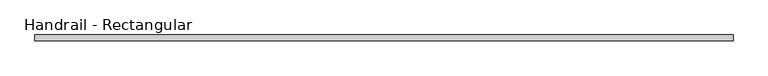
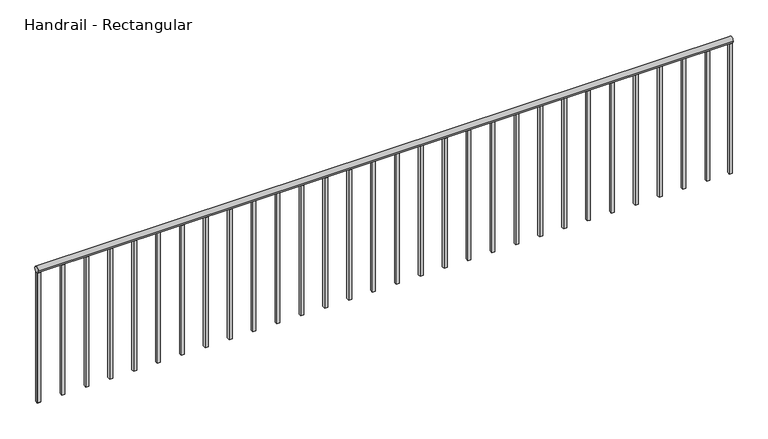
"""IFC4 building model written with IfcOpenShell, lengths in millimetres: railing geometry, Handrail - Rectangular."""

from ifc_helpers import new_model, si_unit, point, frame, frame_2d, origin, place, context, project, spatial, polyline, circle_curve, trimmed, segment, composite_curve, outline, extrude, source, transform, mapped, element, save


def handrail_rectangular_89898b2f(model_context):
    return source(origin(), model_context, "Body", "SweptSolid", [
        extrude(outline(composite_curve([segment(trimmed(circle_curve(frame_2d((-35553.1683133, 3943.35)), 19.05), [point((-35572.2183133, 3943.35))], [point((-35534.1183133, 3943.35))], False, "CARTESIAN"), True, "CONTINUOUS"), segment(trimmed(circle_curve(frame_2d((-35553.1683133, 3943.35)), 19.05), [point((-35534.1183133, 3943.35))], [point((-35572.2183133, 3943.35))], False, "CARTESIAN"), True, "CONTINUOUS")], self_intersect=False)), frame((-30440.2839563, 0.0, 0.0), z_axis=(1.0, 0.0, 0.0), x_axis=(0.0, 1.0, 0.0)), (0.0, 0.0, 1.0), 4432.3),
        extrude(outline(polyline([(-30418.0589563, -35543.6433133), (-30418.0589563, -35562.6933133), (-30437.1089563, -35562.6933133), (-30437.1089563, -35543.6433133), (-30418.0589563, -35543.6433133)])), frame((0.0, 0.0, 3048.0), z_axis=(0.0, 0.0, 1.0), x_axis=(1.0, 0.0, 0.0)), (0.0, 0.0, 1.0), 876.3),
        extrude(outline(polyline([(-30265.6589563, -35543.6433133), (-30265.6589563, -35562.6933133), (-30284.7089563, -35562.6933133), (-30284.7089563, -35543.6433133), (-30265.6589563, -35543.6433133)])), frame((0.0, 0.0, 3048.0), z_axis=(0.0, 0.0, 1.0), x_axis=(1.0, 0.0, 0.0)), (0.0, 0.0, 1.0), 876.3),
        extrude(outline(polyline([(-30113.2589563, -35543.6433133), (-30113.2589563, -35562.6933133), (-30132.3089563, -35562.6933133), (-30132.3089563, -35543.6433133), (-30113.2589563, -35543.6433133)])), frame((0.0, 0.0, 3048.0), z_axis=(0.0, 0.0, 1.0), x_axis=(1.0, 0.0, 0.0)), (0.0, 0.0, 1.0), 876.3),
        extrude(outline(polyline([(-29960.8589563, -35543.6433133), (-29960.8589563, -35562.6933133), (-29979.9089563, -35562.6933133), (-29979.9089563, -35543.6433133), (-29960.8589563, -35543.6433133)])), frame((0.0, 0.0, 3048.0), z_axis=(0.0, 0.0, 1.0), x_axis=(1.0, 0.0, 0.0)), (0.0, 0.0, 1.0), 876.3),
        extrude(outline(polyline([(-29808.4589563, -35543.6433133), (-29808.4589563, -35562.6933133), (-29827.5089563, -35562.6933133), (-29827.5089563, -35543.6433133), (-29808.4589563, -35543.6433133)])), frame((0.0, 0.0, 3048.0), z_axis=(0.0, 0.0, 1.0), x_axis=(1.0, 0.0, 0.0)), (0.0, 0.0, 1.0), 876.3),
        extrude(outline(polyline([(-29656.0589563, -35543.6433133), (-29656.0589563, -35562.6933133), (-29675.1089563, -35562.6933133), (-29675.1089563, -35543.6433133), (-29656.0589563, -35543.6433133)])), frame((0.0, 0.0, 3048.0), z_axis=(0.0, 0.0, 1.0), x_axis=(1.0, 0.0, 0.0)), (0.0, 0.0, 1.0), 876.3),
        extrude(outline(polyline([(-29503.6589563, -35543.6433133), (-29503.6589563, -35562.6933133), (-29522.7089563, -35562.6933133), (-29522.7089563, -35543.6433133), (-29503.6589563, -35543.6433133)])), frame((0.0, 0.0, 3048.0), z_axis=(0.0, 0.0, 1.0), x_axis=(1.0, 0.0, 0.0)), (0.0, 0.0, 1.0), 876.3),
        extrude(outline(polyline([(-29351.2589563, -35543.6433133), (-29351.2589563, -35562.6933133), (-29370.3089563, -35562.6933133), (-29370.3089563, -35543.6433133), (-29351.2589563, -35543.6433133)])), frame((0.0, 0.0, 3048.0), z_axis=(0.0, 0.0, 1.0), x_axis=(1.0, 0.0, 0.0)), (0.0, 0.0, 1.0), 876.3),
        extrude(outline(polyline([(-29198.8589563, -35543.6433133), (-29198.8589563, -35562.6933133), (-29217.9089563, -35562.6933133), (-29217.9089563, -35543.6433133), (-29198.8589563, -35543.6433133)])), frame((0.0, 0.0, 3048.0), z_axis=(0.0, 0.0, 1.0), x_axis=(1.0, 0.0, 0.0)), (0.0, 0.0, 1.0), 876.3),
        extrude(outline(polyline([(-29046.4589563, -35543.6433133), (-29046.4589563, -35562.6933133), (-29065.5089563, -35562.6933133), (-29065.5089563, -35543.6433133), (-29046.4589563, -35543.6433133)])), frame((0.0, 0.0, 3048.0), z_axis=(0.0, 0.0, 1.0), x_axis=(1.0, 0.0, 0.0)), (0.0, 0.0, 1.0), 876.3),
        extrude(outline(polyline([(-28894.0589563, -35543.6433133), (-28894.0589563, -35562.6933133), (-28913.1089563, -35562.6933133), (-28913.1089563, -35543.6433133), (-28894.0589563, -35543.6433133)])), frame((0.0, 0.0, 3048.0), z_axis=(0.0, 0.0, 1.0), x_axis=(1.0, 0.0, 0.0)), (0.0, 0.0, 1.0), 876.3),
        extrude(outline(polyline([(-28741.6589563, -35543.6433133), (-28741.6589563, -35562.6933133), (-28760.7089563, -35562.6933133), (-28760.7089563, -35543.6433133), (-28741.6589563, -35543.6433133)])), frame((0.0, 0.0, 3048.0), z_axis=(0.0, 0.0, 1.0), x_axis=(1.0, 0.0, 0.0)), (0.0, 0.0, 1.0), 876.3),
        extrude(outline(polyline([(-28589.2589563, -35543.6433133), (-28589.2589563, -35562.6933133), (-28608.3089563, -35562.6933133), (-28608.3089563, -35543.6433133), (-28589.2589563, -35543.6433133)])), frame((0.0, 0.0, 3048.0), z_axis=(0.0, 0.0, 1.0), x_axis=(1.0, 0.0, 0.0)), (0.0, 0.0, 1.0), 876.3),
        extrude(outline(polyline([(-28436.8589563, -35543.6433133), (-28436.8589563, -35562.6933133), (-28455.9089563, -35562.6933133), (-28455.9089563, -35543.6433133), (-28436.8589563, -35543.6433133)])), frame((0.0, 0.0, 3048.0), z_axis=(0.0, 0.0, 1.0), x_axis=(1.0, 0.0, 0.0)), (0.0, 0.0, 1.0), 876.3),
        extrude(outline(polyline([(-28284.4589563, -35543.6433133), (-28284.4589563, -35562.6933133), (-28303.5089563, -35562.6933133), (-28303.5089563, -35543.6433133), (-28284.4589563, -35543.6433133)])), frame((0.0, 0.0, 3048.0), z_axis=(0.0, 0.0, 1.0), x_axis=(1.0, 0.0, 0.0)), (0.0, 0.0, 1.0), 876.3),
        extrude(outline(polyline([(-28132.0589563, -35543.6433133), (-28132.0589563, -35562.6933133), (-28151.1089563, -35562.6933133), (-28151.1089563, -35543.6433133), (-28132.0589563, -35543.6433133)])), frame((0.0, 0.0, 3048.0), z_axis=(0.0, 0.0, 1.0), x_axis=(1.0, 0.0, 0.0)), (0.0, 0.0, 1.0), 876.3),
        extrude(outline(polyline([(-27979.6589563, -35543.6433133), (-27979.6589563, -35562.6933133), (-27998.7089563, -35562.6933133), (-27998.7089563, -35543.6433133), (-27979.6589563, -35543.6433133)])), frame((0.0, 0.0, 3048.0), z_axis=(0.0, 0.0, 1.0), x_axis=(1.0, 0.0, 0.0)), (0.0, 0.0, 1.0), 876.3),
        extrude(outline(polyline([(-27827.2589563, -35543.6433133), (-27827.2589563, -35562.6933133), (-27846.3089563, -35562.6933133), (-27846.3089563, -35543.6433133), (-27827.2589563, -35543.6433133)])), frame((0.0, 0.0, 3048.0), z_axis=(0.0, 0.0, 1.0), x_axis=(1.0, 0.0, 0.0)), (0.0, 0.0, 1.0), 876.3),
        extrude(outline(polyline([(-27674.8589563, -35543.6433133), (-27674.8589563, -35562.6933133), (-27693.9089563, -35562.6933133), (-27693.9089563, -35543.6433133), (-27674.8589563, -35543.6433133)])), frame((0.0, 0.0, 3048.0), z_axis=(0.0, 0.0, 1.0), x_axis=(1.0, 0.0, 0.0)), (0.0, 0.0, 1.0), 876.3),
        extrude(outline(polyline([(-27522.4589563, -35543.6433133), (-27522.4589563, -35562.6933133), (-27541.5089563, -35562.6933133), (-27541.5089563, -35543.6433133), (-27522.4589563, -35543.6433133)])), frame((0.0, 0.0, 3048.0), z_axis=(0.0, 0.0, 1.0), x_axis=(1.0, 0.0, 0.0)), (0.0, 0.0, 1.0), 876.3),
        extrude(outline(polyline([(-27370.0589563, -35543.6433133), (-27370.0589563, -35562.6933133), (-27389.1089563, -35562.6933133), (-27389.1089563, -35543.6433133), (-27370.0589563, -35543.6433133)])), frame((0.0, 0.0, 3048.0), z_axis=(0.0, 0.0, 1.0), x_axis=(1.0, 0.0, 0.0)), (0.0, 0.0, 1.0), 876.3),
        extrude(outline(polyline([(-27217.6589563, -35543.6433133), (-27217.6589563, -35562.6933133), (-27236.7089563, -35562.6933133), (-27236.7089563, -35543.6433133), (-27217.6589563, -35543.6433133)])), frame((0.0, 0.0, 3048.0), z_axis=(0.0, 0.0, 1.0), x_axis=(1.0, 0.0, 0.0)), (0.0, 0.0, 1.0), 876.3),
        extrude(outline(polyline([(-27065.2589563, -35543.6433133), (-27065.2589563, -35562.6933133), (-27084.3089563, -35562.6933133), (-27084.3089563, -35543.6433133), (-27065.2589563, -35543.6433133)])), frame((0.0, 0.0, 3048.0), z_axis=(0.0, 0.0, 1.0), x_axis=(1.0, 0.0, 0.0)), (0.0, 0.0, 1.0), 876.3),
        extrude(outline(polyline([(-26912.8589563, -35543.6433133), (-26912.8589563, -35562.6933133), (-26931.9089563, -35562.6933133), (-26931.9089563, -35543.6433133), (-26912.8589563, -35543.6433133)])), frame((0.0, 0.0, 3048.0), z_axis=(0.0, 0.0, 1.0), x_axis=(1.0, 0.0, 0.0)), (0.0, 0.0, 1.0), 876.3),
        extrude(outline(polyline([(-26760.4589563, -35543.6433133), (-26760.4589563, -35562.6933133), (-26779.5089563, -35562.6933133), (-26779.5089563, -35543.6433133), (-26760.4589563, -35543.6433133)])), frame((0.0, 0.0, 3048.0), z_axis=(0.0, 0.0, 1.0), x_axis=(1.0, 0.0, 0.0)), (0.0, 0.0, 1.0), 876.3),
        extrude(outline(polyline([(-26608.0589563, -35543.6433133), (-26608.0589563, -35562.6933133), (-26627.1089563, -35562.6933133), (-26627.1089563, -35543.6433133), (-26608.0589563, -35543.6433133)])), frame((0.0, 0.0, 3048.0), z_axis=(0.0, 0.0, 1.0), x_axis=(1.0, 0.0, 0.0)), (0.0, 0.0, 1.0), 876.3),
        extrude(outline(polyline([(-26455.6589563, -35543.6433133), (-26455.6589563, -35562.6933133), (-26474.7089563, -35562.6933133), (-26474.7089563, -35543.6433133), (-26455.6589563, -35543.6433133)])), frame((0.0, 0.0, 3048.0), z_axis=(0.0, 0.0, 1.0), x_axis=(1.0, 0.0, 0.0)), (0.0, 0.0, 1.0), 876.3),
        extrude(outline(polyline([(-26303.2589563, -35543.6433133), (-26303.2589563, -35562.6933133), (-26322.3089563, -35562.6933133), (-26322.3089563, -35543.6433133), (-26303.2589563, -35543.6433133)])), frame((0.0, 0.0, 3048.0), z_axis=(0.0, 0.0, 1.0), x_axis=(1.0, 0.0, 0.0)), (0.0, 0.0, 1.0), 876.3),
        extrude(outline(polyline([(-26150.8589563, -35543.6433133), (-26150.8589563, -35562.6933133), (-26169.9089563, -35562.6933133), (-26169.9089563, -35543.6433133), (-26150.8589563, -35543.6433133)])), frame((0.0, 0.0, 3048.0), z_axis=(0.0, 0.0, 1.0), x_axis=(1.0, 0.0, 0.0)), (0.0, 0.0, 1.0), 876.3),
        extrude(outline(polyline([(-30421.2339563, -35543.6433133), (-30421.2339563, -35562.6933133), (-30440.2839563, -35562.6933133), (-30440.2839563, -35543.6433133), (-30421.2339563, -35543.6433133)])), frame((0.0, 0.0, 3048.0), z_axis=(0.0, 0.0, 1.0), x_axis=(1.0, 0.0, 0.0)), (0.0, 0.0, 1.0), 876.3),
        extrude(outline(polyline([(-26007.9839563, -35543.6433133), (-26007.9839563, -35562.6933133), (-26027.0339563, -35562.6933133), (-26027.0339563, -35543.6433133), (-26007.9839563, -35543.6433133)])), frame((0.0, 0.0, 3048.0), z_axis=(0.0, 0.0, 1.0), x_axis=(1.0, 0.0, 0.0)), (0.0, 0.0, 1.0), 876.3),
    ])


if __name__ == "__main__":
    model = new_model("IFC4")
    model_context = context("Model", 3, world=origin())
    ifc_project = project(units=[si_unit("LENGTHUNIT", "METRE", prefix="MILLI")], contexts=[model_context])
    site = spatial("IfcSite", under=ifc_project)
    building = spatial("IfcBuilding", under=site)
    placement = place(None, origin())
    handrail_rectangular_shape = handrail_rectangular_89898b2f(model_context)
    element("IfcRailing", 1, ObjectType="Handrail - Rectangular", at=placement, inside=building, context=model_context, shape_type="MappedRepresentation", body=[
        mapped(handrail_rectangular_shape, transform((0.0, 0.0, 0.0), x_axis=(1.0, 0.0, 0.0), y_axis=(0.0, 1.0, 0.0), z_axis=(0.0, 0.0, 1.0))),
    ])
    save(model, "model.ifc")
